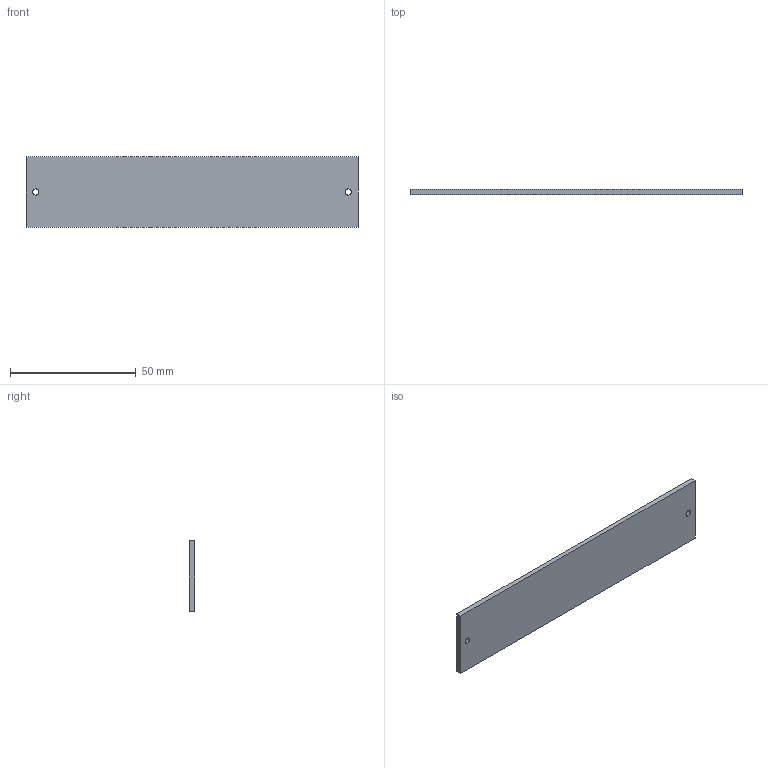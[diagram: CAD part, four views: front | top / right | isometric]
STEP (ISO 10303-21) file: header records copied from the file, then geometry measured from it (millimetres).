
FILE_DESCRIPTION (( 'STEP AP214' ), '1' );
FILE_NAME ('LBRX-00-120-6-DIFFUSER.STEP', '2021-11-05T05:53:05', ( '' ), ( '' ), 'SwSTEP 2.0', 'SolidWorks 2021', '' );
FILE_SCHEMA (( 'AUTOMOTIVE_DESIGN' ));
Length unit declared in the file: millimetre
Products named in the file (1): LBRX-00-120-6-DIFFUSER
Bounding box: 132 x 2 x 28 mm (x, y, z)
Volume: 7372.4 mm3; surface area: 8043.8 mm2
Topology: 1 solids, 1 shells, 10 faces, 24 edges, 16 vertices
Faces by surface type: plane 6, cylinder 4
Entity records: 338 total; most frequent: DIRECTION 54, CARTESIAN_POINT 51, ORIENTED_EDGE 48, EDGE_CURVE 24, AXIS2_PLACEMENT_3D 19, LINE 16, VECTOR 16, VERTEX_POINT 16
